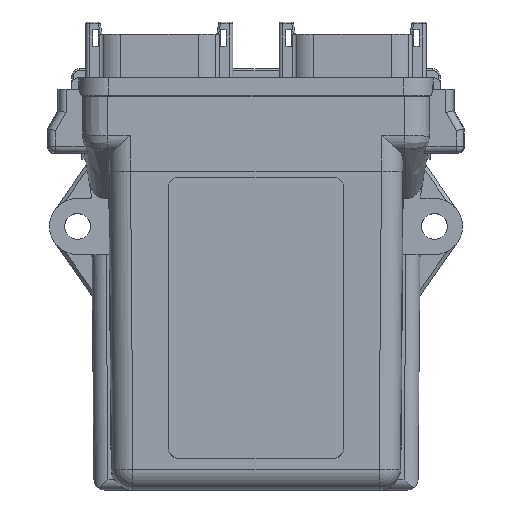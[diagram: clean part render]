
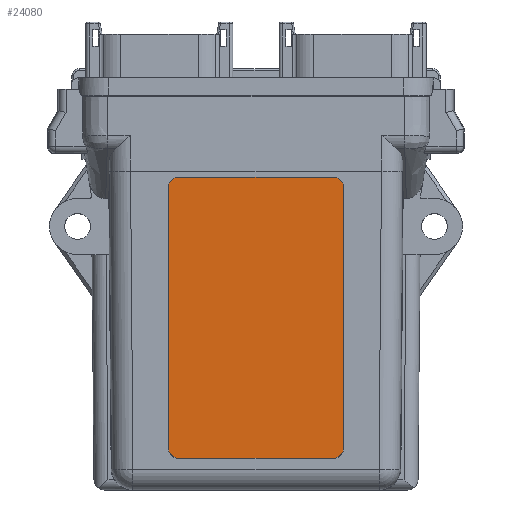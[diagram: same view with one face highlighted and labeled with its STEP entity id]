
A CAD part, top view. The second image highlights one B-rep face of the part: STEP entity #24080.
In plain terms, the highlighted planar face has unit normal (0, -0.026, 1) as drawn and (0, 1, -0.026) by its records, which use the part's own axes.
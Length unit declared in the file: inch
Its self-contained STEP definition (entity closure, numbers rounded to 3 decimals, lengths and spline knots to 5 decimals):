
#13422 = CARTESIAN_POINT ( 'NONE',  ( 0.86614, 1.07434, -4.13386 ) ) ;
#13491 = CARTESIAN_POINT ( 'NONE',  ( 0.86614, 1.15681, -0.98425 ) ) ;
#13492 = CARTESIAN_POINT ( 'NONE',  ( -0.86614, 1.07434, -4.13386 ) ) ;
#13494 = CARTESIAN_POINT ( 'NONE',  ( 0.98425, 1.15372, -1.10236 ) ) ;
#13496 = CARTESIAN_POINT ( 'NONE',  ( -0.86614, 1.15681, -0.98425 ) ) ;
#13497 = CARTESIAN_POINT ( 'NONE',  ( -0.98425, 1.07743, -4.01575 ) ) ;
#13498 = CARTESIAN_POINT ( 'NONE',  ( 0.98425, 1.07743, -4.01575 ) ) ;
#13501 = CARTESIAN_POINT ( 'NONE',  ( -0.98425, 1.15372, -1.10236 ) ) ;
#14882 = CARTESIAN_POINT ( 'NONE',  ( -0.98425, 1.07434, -4.13386 ) ) ;
#14883 = CARTESIAN_POINT ( 'NONE',  ( 0.98425, 1.07562, -4.08494 ) ) ;
#14884 = DIRECTION ( 'NONE',  ( 1., 0., 0. ) ) ;
#14888 = CARTESIAN_POINT ( 'NONE',  ( -0.98425, 1.15681, -0.98425 ) ) ;
#14889 = CARTESIAN_POINT ( 'NONE',  ( 0.98425, 1.07743, -4.01575 ) ) ;
#14890 = DIRECTION ( 'NONE',  ( 1., 0., 0. ) ) ;
#14894 = CARTESIAN_POINT ( 'NONE',  ( 0.98425, 1.07434, -4.13386 ) ) ;
#14895 = DIRECTION ( 'NONE',  ( 0., 0.026, 1. ) ) ;
#14896 = CARTESIAN_POINT ( 'NONE',  ( -0.93533, 1.07434, -4.13386 ) ) ;
#14897 = CARTESIAN_POINT ( 'NONE',  ( -0.86614, 1.07434, -4.13386 ) ) ;
#14898 = CARTESIAN_POINT ( 'NONE',  ( 0.93533, 1.07434, -4.13386 ) ) ;
#14899 = CARTESIAN_POINT ( 'NONE',  ( 0.86614, 1.07434, -4.13386 ) ) ;
#14900 = CARTESIAN_POINT ( 'NONE',  ( -0.98425, 1.15553, -1.03317 ) ) ;
#14901 = CARTESIAN_POINT ( 'NONE',  ( -0.98425, 1.15372, -1.10236 ) ) ;
#14902 = CARTESIAN_POINT ( 'NONE',  ( -0.98425, 1.07562, -4.08494 ) ) ;
#14903 = CARTESIAN_POINT ( 'NONE',  ( -0.98425, 1.07743, -4.01575 ) ) ;
#14904 = CARTESIAN_POINT ( 'NONE',  ( -0.98425, 1.07434, -4.13386 ) ) ;
#14905 = DIRECTION ( 'NONE',  ( 0., 0.026, 1. ) ) ;
#14906 = CARTESIAN_POINT ( 'NONE',  ( 0.93533, 1.15681, -0.98425 ) ) ;
#14907 = CARTESIAN_POINT ( 'NONE',  ( 0.86614, 1.15681, -0.98425 ) ) ;
#14908 = CARTESIAN_POINT ( 'NONE',  ( -0.93533, 1.15681, -0.98425 ) ) ;
#14909 = CARTESIAN_POINT ( 'NONE',  ( -0.86614, 1.15681, -0.98425 ) ) ;
#14912 = CARTESIAN_POINT ( 'NONE',  ( 0.98425, 1.15553, -1.03317 ) ) ;
#14913 = CARTESIAN_POINT ( 'NONE',  ( 0.98425, 1.15372, -1.10236 ) ) ;
#15163 = LINE ( 'NONE', #14882, #15166 ) ;
#15166 = VECTOR ( 'NONE', #14884, 39.37008 ) ;
#15169 = LINE ( 'NONE', #14888, #15172 ) ;
#15172 = VECTOR ( 'NONE', #14890, 39.37008 ) ;
#15175 = LINE ( 'NONE', #14894, #15177 ) ;
#15177 = VECTOR ( 'NONE', #14895, 39.37008 ) ;
#15178 = LINE ( 'NONE', #14904, #15179 ) ;
#15179 = VECTOR ( 'NONE', #14905, 39.37008 ) ;
#24080 = ADVANCED_FACE ( 'NONE', ( #63317 ), #63091, .T. ) ;
#47250 = VERTEX_POINT ( 'NONE', #13422 ) ;
#47319 = VERTEX_POINT ( 'NONE', #13491 ) ;
#47320 = VERTEX_POINT ( 'NONE', #13492 ) ;
#47322 = VERTEX_POINT ( 'NONE', #13494 ) ;
#47324 = VERTEX_POINT ( 'NONE', #13496 ) ;
#47325 = VERTEX_POINT ( 'NONE', #13497 ) ;
#47326 = VERTEX_POINT ( 'NONE', #13498 ) ;
#47329 = VERTEX_POINT ( 'NONE', #13501 ) ;
#50951 = EDGE_LOOP ( 'NONE', ( #57850, #57853, #57856, #57859, #57860, #57862, #57865, #57868 ) ) ;
#55783 = AXIS2_PLACEMENT_3D ( 'NONE', #63084, #63093, #63094 ) ;
#57850 = ORIENTED_EDGE ( 'NONE', *, *, #58810, .F. ) ;
#57853 = ORIENTED_EDGE ( 'NONE', *, *, #58811, .T. ) ;
#57856 = ORIENTED_EDGE ( 'NONE', *, *, #58804, .F. ) ;
#57859 = ORIENTED_EDGE ( 'NONE', *, *, #58812, .T. ) ;
#57860 = ORIENTED_EDGE ( 'NONE', *, *, #58813, .T. ) ;
#57862 = ORIENTED_EDGE ( 'NONE', *, *, #58814, .T. ) ;
#57865 = ORIENTED_EDGE ( 'NONE', *, *, #58807, .T. ) ;
#57868 = ORIENTED_EDGE ( 'NONE', *, *, #58815, .T. ) ;
#58804 = EDGE_CURVE ( 'NONE', #47320, #47250, #15163, .T. ) ;
#58807 = EDGE_CURVE ( 'NONE', #47324, #47319, #15169, .T. ) ;
#58810 = EDGE_CURVE ( 'NONE', #47326, #47322, #15175, .T. ) ;
#58811 = EDGE_CURVE ( 'NONE', #47326, #47250, #67698, .T. ) ;
#58812 = EDGE_CURVE ( 'NONE', #47320, #47325, #67699, .T. ) ;
#58813 = EDGE_CURVE ( 'NONE', #47325, #47329, #15178, .T. ) ;
#58814 = EDGE_CURVE ( 'NONE', #47329, #47324, #67700, .T. ) ;
#58815 = EDGE_CURVE ( 'NONE', #47319, #47322, #67701, .T. ) ;
#63084 = CARTESIAN_POINT ( 'NONE',  ( -0.98425, 1.07434, -4.13386 ) ) ;
#63091 = PLANE ( 'NONE',  #55783 ) ;
#63093 = DIRECTION ( 'NONE',  ( 0., 1., -0.026 ) ) ;
#63094 = DIRECTION ( 'NONE',  ( 0., 0.026, 1. ) ) ;
#63317 = FACE_OUTER_BOUND ( 'NONE', #50951, .T. ) ;
#67698 =( BOUNDED_CURVE ( )  B_SPLINE_CURVE ( 3, ( #14889, #14883, #14898, #14899 ),
 .UNSPECIFIED., .F., .F. ) 
 B_SPLINE_CURVE_WITH_KNOTS ( ( 4, 4 ),
 ( 1.5708, 3.14159 ),
 .UNSPECIFIED. ) 
 CURVE ( )  GEOMETRIC_REPRESENTATION_ITEM ( )  RATIONAL_B_SPLINE_CURVE ( ( 1., 0.805, 0.805, 1. ) ) 
 REPRESENTATION_ITEM ( '' )  );
#67699 =( BOUNDED_CURVE ( )  B_SPLINE_CURVE ( 3, ( #14897, #14896, #14902, #14903 ),
 .UNSPECIFIED., .F., .F. ) 
 B_SPLINE_CURVE_WITH_KNOTS ( ( 4, 4 ),
 ( 0., 1.5708 ),
 .UNSPECIFIED. ) 
 CURVE ( )  GEOMETRIC_REPRESENTATION_ITEM ( )  RATIONAL_B_SPLINE_CURVE ( ( 1., 0.805, 0.805, 1. ) ) 
 REPRESENTATION_ITEM ( '' )  );
#67700 =( BOUNDED_CURVE ( )  B_SPLINE_CURVE ( 3, ( #14901, #14900, #14908, #14909 ),
 .UNSPECIFIED., .F., .F. ) 
 B_SPLINE_CURVE_WITH_KNOTS ( ( 4, 4 ),
 ( 4.71239, 6.28319 ),
 .UNSPECIFIED. ) 
 CURVE ( )  GEOMETRIC_REPRESENTATION_ITEM ( )  RATIONAL_B_SPLINE_CURVE ( ( 1., 0.805, 0.805, 1. ) ) 
 REPRESENTATION_ITEM ( '' )  );
#67701 =( BOUNDED_CURVE ( )  B_SPLINE_CURVE ( 3, ( #14907, #14906, #14912, #14913 ),
 .UNSPECIFIED., .F., .F. ) 
 B_SPLINE_CURVE_WITH_KNOTS ( ( 4, 4 ),
 ( 3.14159, 4.71239 ),
 .UNSPECIFIED. ) 
 CURVE ( )  GEOMETRIC_REPRESENTATION_ITEM ( )  RATIONAL_B_SPLINE_CURVE ( ( 1., 0.805, 0.805, 1. ) ) 
 REPRESENTATION_ITEM ( '' )  );
